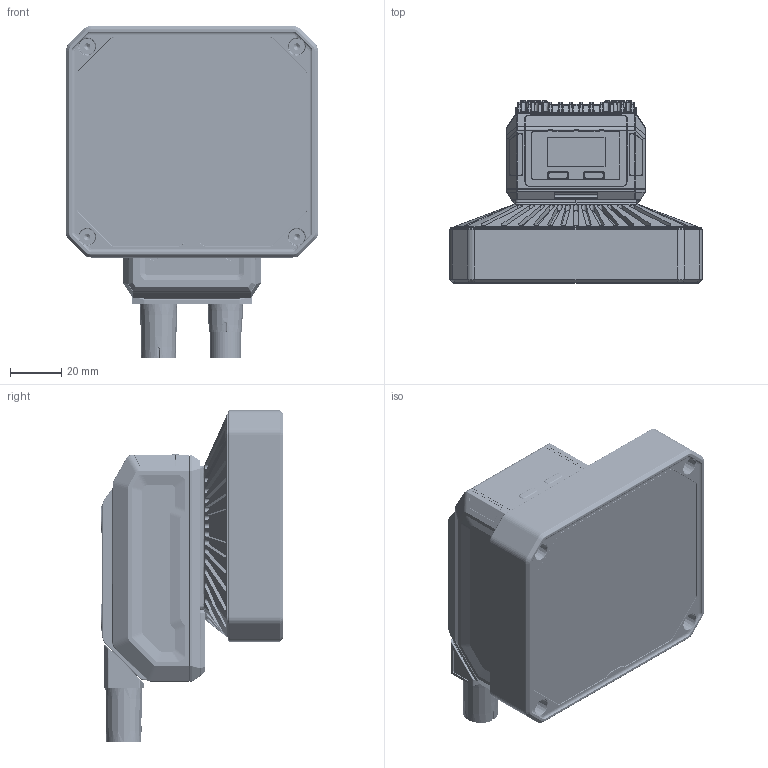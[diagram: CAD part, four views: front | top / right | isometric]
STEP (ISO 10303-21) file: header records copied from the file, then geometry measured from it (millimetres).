
FILE_DESCRIPTION((''),'2;1');
FILE_NAME('00-ID5050XM-DUOSE-ASSY','2026-01-14T11:38:59',('huguozhe'),(''),'CREO PARAMETRIC BY PTC INC, 2020044','CREO PARAMETRIC BY PTC INC, 2020044','');
FILE_SCHEMA(('AUTOMOTIVE_DESIGN { 1 0 10303 214 1 1 1 1 }'));
Products named in the file (1): 00-ID5050XM-DUOSE-ASSY
Bounding box: 98.01 x 70.78 x 129.07 mm (x, y, z)
Volume: 294304 mm3; surface area: 121819.7 mm2
Topology: 1 solids, 76 shells, 4217 faces, 10725 edges, 6640 vertices
Faces by surface type: cylinder 1355, plane 1179, cone 610, torus 531, bspline 478, sphere 40, extrusion 14, revolution 10
Entity records: 208716 total; most frequent: CARTESIAN_POINT 93899, ORIENTED_EDGE 21018, DIRECTION 19824, EDGE_CURVE 10621, AXIS2_PLACEMENT_3D 7740, VERTEX_POINT 6640, EDGE_LOOP 4487, VECTOR 4334
